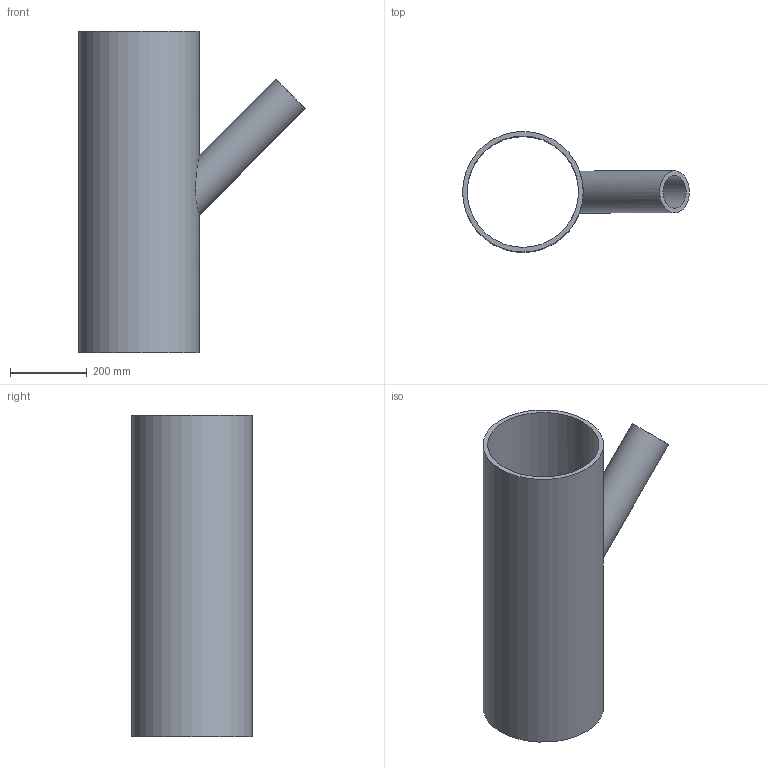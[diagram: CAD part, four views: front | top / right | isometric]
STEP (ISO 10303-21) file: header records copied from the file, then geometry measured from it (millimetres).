
FILE_DESCRIPTION(/* description */ (''),/* implementation_level */ '2;1');
FILE_NAME(/* name */ 'C:\Planerdaten\Export PLA\PRO_101557\stp\372135.stp',/* time_stamp */ '2021-09-30T15:09:47+02:00',/* author */ ('JANAN'),/* organization */ (''),/* preprocessor_version */ 'ST-DEVELOPER v16.13',/* originating_system */ 'Autodesk Inventor 2018',/* authorisation */ '');
FILE_SCHEMA (('AUTOMOTIVE_DESIGN { 1 0 10303 214 3 1 1 }'));
Length unit declared in the file: millimetre
Products named in the file (1): tmpC404.tmp
Bounding box: 592.37 x 315 x 840 mm (x, y, z)
Volume: 10933563.9 mm3; surface area: 1818730.7 mm2
Topology: 1 solids, 1 shells, 7 faces, 17 edges, 12 vertices
Faces by surface type: cylinder 4, plane 3
Full cylindrical faces by diameter (mm): 85.6 x1, 110 x1, 290.6 x1, 315 x1
Entity records: 324 total; most frequent: CARTESIAN_POINT 146, DIRECTION 28, EDGE_LOOP 16, ORIENTED_EDGE 16, AXIS2_PLACEMENT_3D 14, FACE_BOUND 9, VERTEX_POINT 8, EDGE_CURVE 8
